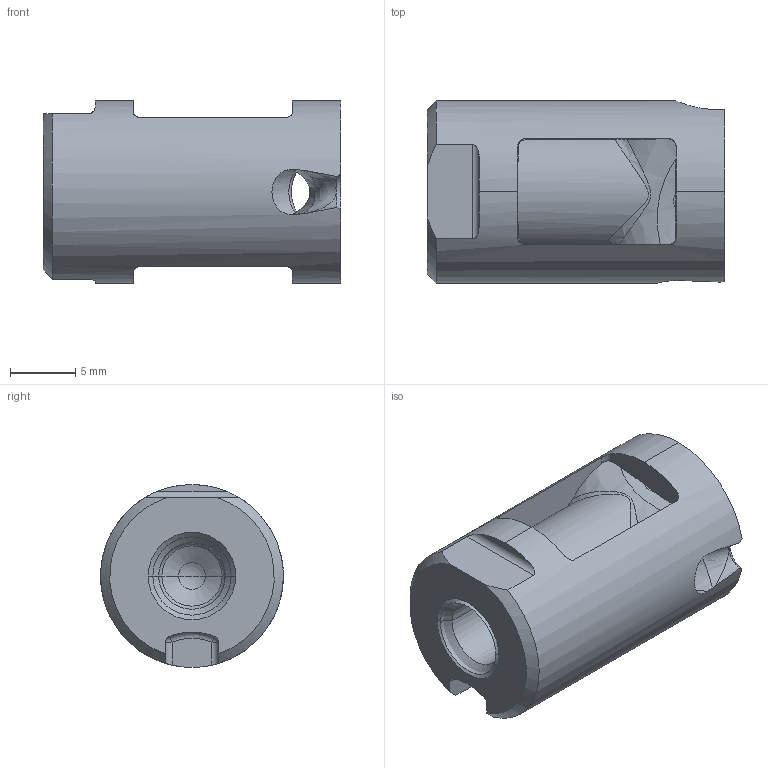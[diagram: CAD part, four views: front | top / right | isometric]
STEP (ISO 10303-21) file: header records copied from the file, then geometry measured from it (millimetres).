
FILE_DESCRIPTION((''),'2;1');
FILE_NAME('TGR14-24-S1','2004-03-24T',('tmeister'),(''),'PRO/ENGINEER BY PARAMETRIC TECHNOLOGY CORPORATION, 2002270','PRO/ENGINEER BY PARAMETRIC TECHNOLOGY CORPORATION, 2002270','');
FILE_SCHEMA(('CONFIG_CONTROL_DESIGN'));
Length unit declared in the file: millimetre
Products named in the file (1): TGR14-24-S1
Bounding box: 22.8 x 14 x 14 mm (x, y, z)
Volume: 2494.8 mm3; surface area: 2018.4 mm2
Topology: 1 solids, 2 shells, 76 faces, 272 edges, 197 vertices
Faces by surface type: cylinder 20, plane 19, cone 15, bspline 14, sphere 5, torus 3
Entity records: 5312 total; most frequent: CARTESIAN_POINT 3367, ORIENTED_EDGE 398, DIRECTION 302, EDGE_CURVE 201, B_SPLINE_CURVE_WITH_KNOTS 140, VERTEX_POINT 128, AXIS2_PLACEMENT_3D 110, VECTOR 82
